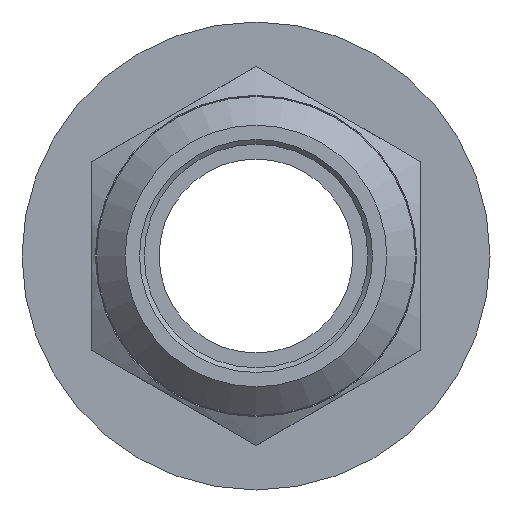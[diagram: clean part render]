
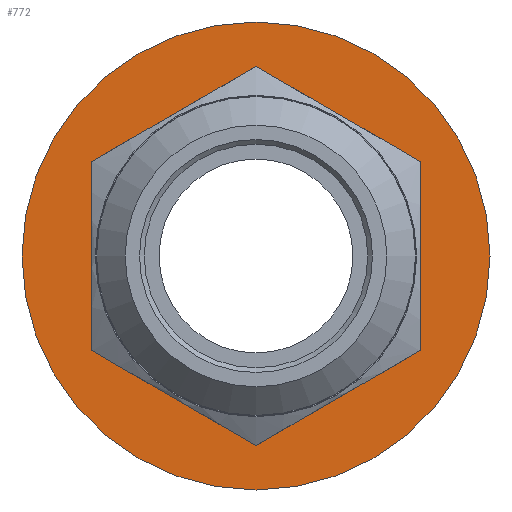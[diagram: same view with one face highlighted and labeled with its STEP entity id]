
A CAD part, front view. The second image highlights one B-rep face of the part: STEP entity #772.
In plain terms, the highlighted planar face has unit normal (0, -1, 0).
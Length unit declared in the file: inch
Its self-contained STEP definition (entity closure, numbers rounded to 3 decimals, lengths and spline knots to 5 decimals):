
#128=FACE_BOUND('',#186,.T.);
#140=FACE_OUTER_BOUND('',#185,.T.);
#185=EDGE_LOOP('',(#518,#519));
#186=EDGE_LOOP('',(#520,#521));
#242=CIRCLE('',#834,0.49);
#243=CIRCLE('',#835,0.49);
#244=CIRCLE('',#836,0.2925);
#245=CIRCLE('',#837,0.2925);
#315=VERTEX_POINT('',#1230);
#316=VERTEX_POINT('',#1231);
#317=VERTEX_POINT('',#1234);
#318=VERTEX_POINT('',#1235);
#400=EDGE_CURVE('',#315,#316,#242,.T.);
#401=EDGE_CURVE('',#316,#315,#243,.T.);
#402=EDGE_CURVE('',#317,#318,#244,.T.);
#403=EDGE_CURVE('',#318,#317,#245,.T.);
#518=ORIENTED_EDGE('',*,*,#400,.T.);
#519=ORIENTED_EDGE('',*,*,#401,.T.);
#520=ORIENTED_EDGE('',*,*,#402,.F.);
#521=ORIENTED_EDGE('',*,*,#403,.F.);
#754=PLANE('',#833);
#772=ADVANCED_FACE('',(#140,#128),#754,.T.);
#833=AXIS2_PLACEMENT_3D('',#1229,#956,#957);
#834=AXIS2_PLACEMENT_3D('',#1232,#958,#959);
#835=AXIS2_PLACEMENT_3D('',#1233,#960,#961);
#836=AXIS2_PLACEMENT_3D('',#1236,#962,#963);
#837=AXIS2_PLACEMENT_3D('',#1237,#964,#965);
#956=DIRECTION('center_axis',(0.,-1.,0.));
#957=DIRECTION('ref_axis',(0.,0.,-1.));
#958=DIRECTION('center_axis',(0.,-1.,0.));
#959=DIRECTION('ref_axis',(1.,0.,0.));
#960=DIRECTION('center_axis',(0.,-1.,0.));
#961=DIRECTION('ref_axis',(1.,0.,0.));
#962=DIRECTION('center_axis',(0.,-1.,0.));
#963=DIRECTION('ref_axis',(1.,0.,0.));
#964=DIRECTION('center_axis',(0.,-1.,0.));
#965=DIRECTION('ref_axis',(1.,0.,0.));
#1229=CARTESIAN_POINT('Origin',(0.,0.,-0.2925));
#1230=CARTESIAN_POINT('',(0.,0.,-0.49));
#1231=CARTESIAN_POINT('',(0.,0.,0.49));
#1232=CARTESIAN_POINT('Origin',(0.,0.,0.));
#1233=CARTESIAN_POINT('Origin',(0.,0.,0.));
#1234=CARTESIAN_POINT('',(0.,0.,-0.2925));
#1235=CARTESIAN_POINT('',(0.,0.,0.2925));
#1236=CARTESIAN_POINT('Origin',(0.,0.,0.));
#1237=CARTESIAN_POINT('Origin',(0.,0.,0.));
